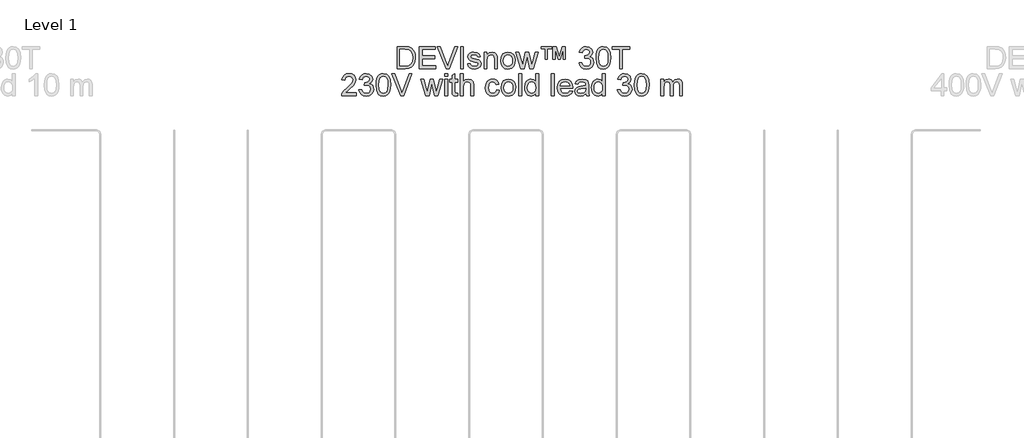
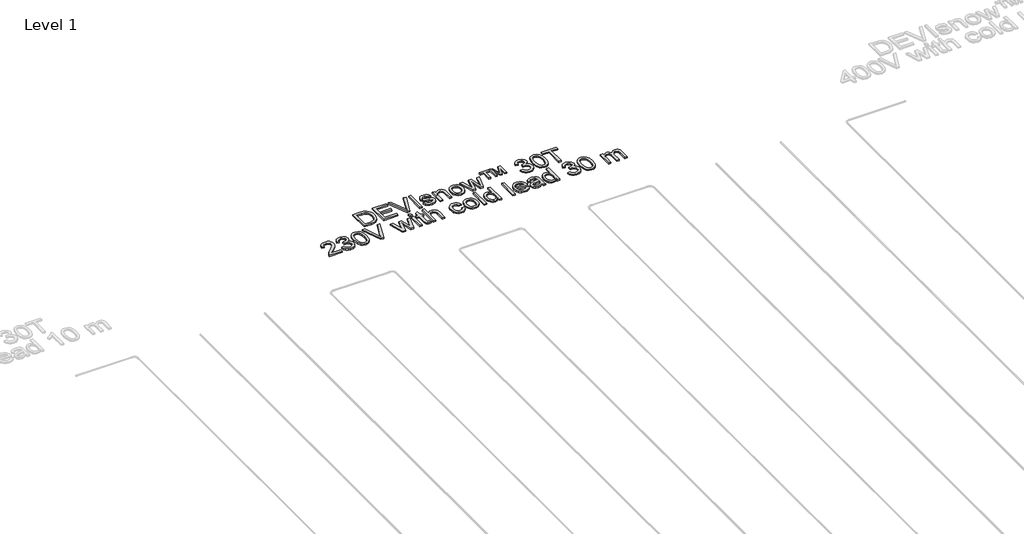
# One storey, part 21 of 26: 1 proxy.
"""IFC4 building model written with IfcOpenShell, lengths in millimetres."""

from ifc_helpers import new_model, si_unit, origin, origin_with_axes, place, context, project, spatial, polyline, outline, extrude, element, save

model = new_model("IFC4")

# Units and contexts
model_context = context("Model", 3, world=origin())
ifc_project = project(units=[si_unit("LENGTHUNIT", "METRE", prefix="MILLI")], contexts=[model_context])

# Site, building, storey
site = spatial("IfcSite", under=ifc_project)
building = spatial("IfcBuilding", under=site)
storey = spatial("IfcBuildingStorey", under=building, Name="Level 1", Elevation=0.0)

# Proxy
placement = place(None, origin())
element("IfcBuildingElementProxy", 1, Name="150mm", ObjectType="150mm", at=placement, inside=storey, context=model_context, shape_type="SweptSolid", body=[
    extrude(outline(polyline([(21423.8396742, -17520.7202), (21423.8396742, -17370.0357347), (21475.8214001, -17370.0357347), (21502.7135739, -17372.2062385), (21524.86007, -17382.985181), (21535.2803276, -17394.4630992), (21542.7023468, -17408.7369206), (21547.1445219, -17425.5307337), (21548.6252469, -17444.568627), (21544.6153332, -17474.9740739), (21534.3146373, -17496.9182349), (21520.5558507, -17510.585051), (21502.548027, -17518.145026), (21478.3229977, -17520.7202), (21423.8396742, -17520.7202)]), holes=[polyline([(21442.6752323, -17501.8846418), (21476.0053411, -17501.8846418), (21500.2487646, -17499.162315), (21514.2282804, -17491.4735813), (21525.6878045, -17472.7667819), (21529.7896888, -17444.2743214), (21527.7801334, -17423.746506), (21521.7514672, -17408.5897678), (21512.8441244, -17398.1787074), (21502.1985391, -17391.8879252), (21475.4903063, -17388.8712929), (21442.6752323, -17388.8712929), (21442.6752323, -17501.8846418)])]), origin_with_axes(), (0.0, 0.0, 1.0), 10.0),
    extrude(outline(polyline([(21574.5241394, -17520.7202), (21574.5241394, -17370.0357347), (21682.8285988, -17370.0357347), (21682.8285988, -17388.8712929), (21593.3596975, -17388.8712929), (21593.3596975, -17433.6057435), (21678.1197092, -17433.6057435), (21678.1197092, -17452.4413017), (21593.3596975, -17452.4413017), (21593.3596975, -17501.8846418), (21685.1830435, -17501.8846418), (21685.1830435, -17520.7202), (21574.5241394, -17520.7202)])), origin_with_axes(), (0.0, 0.0, 1.0), 10.0),
    extrude(outline(polyline([(21757.9501022, -17520.7202), (21697.985337, -17370.0357347), (21718.1452703, -17370.0357347), (21758.281196, -17478.5977115), (21766.4113881, -17503.0618642), (21774.4312156, -17478.5977115), (21814.6775058, -17370.0357347), (21834.8374392, -17370.0357347), (21777.4110597, -17520.7202), (21757.9501022, -17520.7202)])), origin_with_axes(), (0.0, 0.0, 1.0), 10.0),
    extrude(outline(polyline([(21854.7030669, -17520.7202), (21854.7030669, -17370.0357347), (21873.5386251, -17370.0357347), (21873.5386251, -17520.7202), (21854.7030669, -17520.7202)])), origin_with_axes(), (0.0, 0.0, 1.0), 10.0),
    extrude(outline(polyline([(21901.7919623, -17487.7579732), (21920.6275205, -17485.4035284), (21923.5981676, -17493.4601441), (21929.3463237, -17499.3830442), (21949.3223161, -17504.2390866), (21968.5257562, -17499.7877144), (21974.7797501, -17489.3398658), (21973.2070546, -17484.5390057), (21968.488968, -17480.8785799), (21949.1015869, -17475.5075028), (21920.7378851, -17466.2920588), (21908.3586559, -17455.5315104), (21904.1464071, -17440.337984), (21907.5309214, -17426.3032859), (21916.7647595, -17415.5795257), (21928.7393184, -17410.0061135), (21944.9445203, -17407.706851), (21967.8635686, -17411.4040651), (21982.4316956, -17421.4104554), (21988.9064188, -17438.314633), (21970.0708606, -17440.6690778), (21962.9891322, -17430.2764114), (21946.4160483, -17426.5424092), (21928.3898306, -17430.1108645), (21922.9819652, -17438.4249976), (21925.2260454, -17443.9064394), (21932.2525915, -17448.0635059), (21948.4761875, -17452.0734197), (21976.1225194, -17460.9393757), (21988.9616011, -17470.9825542), (21993.6153083, -17487.353303), (21988.1522607, -17505.3795208), (21972.3885172, -17518.4577257), (21949.0647987, -17523.0746447), (21930.0728907, -17520.8489587), (21916.2129365, -17514.1719004), (21906.9607043, -17503.1170465), (21901.7919623, -17487.7579732)])), origin_with_axes(), (0.0, 0.0, 1.0), 10.0),
    extrude(outline(polyline([(22014.8053112, -17520.7202), (22014.8053112, -17410.0612958), (22033.6408694, -17410.0612958), (22033.6408694, -17425.5123396), (22048.0434495, -17412.1582232), (22067.7067421, -17407.706851), (22085.4938366, -17411.2937005), (22097.6339424, -17420.7114796), (22103.2809311, -17434.5622367), (22104.2742124, -17452.7723954), (22104.2742124, -17520.7202), (22085.4386543, -17520.7202), (22085.4386543, -17455.3107812), (22083.2681505, -17438.6457268), (22075.5978109, -17429.834953), (22062.6667588, -17426.5424092), (22051.6348975, -17428.3910162), (22042.230914, -17433.9368373), (22035.7883805, -17444.6514004), (22033.6408694, -17462.0062335), (22033.6408694, -17520.7202), (22014.8053112, -17520.7202)])), origin_with_axes(), (0.0, 0.0, 1.0), 10.0),
    extrude(outline(polyline([(22125.4642154, -17465.3907479), (22129.5385085, -17438.7101062), (22141.7613878, -17419.9573215), (22156.8629437, -17410.7694686), (22174.9443437, -17407.706851), (22194.7317965, -17411.4362548), (22210.5369268, -17422.6244659), (22220.8974034, -17440.3885678), (22224.3508957, -17463.8456435), (22222.8241854, -17482.8743397), (22218.2440546, -17497.3596933), (22210.7438604, -17508.2076136), (22200.4569601, -17516.3240101), (22188.2386793, -17521.3869861), (22174.9443437, -17523.0746447), (22154.9177676, -17519.3590366), (22139.1310315, -17508.2122121), (22128.8809194, -17490.0756298), (22125.4642154, -17465.3907479)]), holes=[polyline([(22144.2997735, -17465.3539597), (22146.4794743, -17482.4006916), (22153.0185768, -17494.545396), (22162.8594202, -17501.8156639), (22174.9443437, -17504.2390866), (22186.974085, -17501.8018684), (22196.7965342, -17494.4902137), (22203.3356367, -17482.184561), (22205.5153375, -17464.7653485), (22203.3218411, -17448.2152572), (22196.7413519, -17436.2360998), (22186.9051071, -17428.9658318), (22174.9443437, -17426.5424092), (22162.8594202, -17428.9566348), (22153.0185768, -17436.1993116), (22146.4794743, -17448.3164248), (22144.2997735, -17465.3539597)])]), origin_with_axes(), (0.0, 0.0, 1.0), 10.0),
    extrude(outline(polyline([(22263.8982102, -17520.7202), (22230.2370076, -17410.0612958), (22249.8083297, -17410.0612958), (22268.9014053, -17474.624586), (22274.6035762, -17497.6907871), (22279.2756776, -17475.4707146), (22294.469204, -17410.0612958), (22316.9100057, -17410.0612958), (22332.0299557, -17475.2867736), (22336.1870222, -17495.4099187), (22342.1467105, -17474.1831276), (22361.2765743, -17410.0612958), (22380.9214728, -17410.0612958), (22347.0027529, -17520.7202), (22324.2308574, -17520.7202), (22309.773095, -17455.825816), (22305.5792402, -17435.5923063), (22286.9276231, -17520.7202), (22263.8982102, -17520.7202)])), origin_with_axes(), (0.0, 0.0, 1.0), 10.0),
    extrude(outline(polyline([(22429.1875906, -17454.7957464), (22429.1875906, -17384.1624033), (22400.9342534, -17384.1624033), (22400.9342534, -17370.0357347), (22471.5675964, -17370.0357347), (22471.5675964, -17384.1624033), (22443.3142592, -17384.1624033), (22443.3142592, -17454.7957464), (22429.1875906, -17454.7957464)])), origin_with_axes(), (0.0, 0.0, 1.0), 10.0),
    extrude(outline(polyline([(22480.9853755, -17454.7957464), (22480.9853755, -17370.0357347), (22501.8810728, -17370.0357347), (22523.4389578, -17438.0939038), (22544.7393253, -17370.0357347), (22565.7453872, -17370.0357347), (22565.7453872, -17454.7957464), (22551.6187186, -17454.7957464), (22551.6187186, -17385.1924729), (22530.4287157, -17454.7957464), (22516.302047, -17454.7957464), (22495.1120441, -17384.1624033), (22495.1120441, -17454.7957464), (22480.9853755, -17454.7957464)])), origin_with_axes(), (0.0, 0.0, 1.0), 10.0),
    extrude(outline(polyline([(22657.5687332, -17480.6946389), (22676.4042913, -17478.3401941), (22680.6211387, -17490.1767973), (22686.7969577, -17498.1690337), (22695.235251, -17502.7215733), (22706.2395212, -17504.2390866), (22719.1521792, -17502.1513563), (22729.1217813, -17495.8881653), (22735.4953368, -17486.5439626), (22737.6198553, -17475.2131972), (22735.5137309, -17464.4572473), (22729.1953577, -17455.7338455), (22719.6304258, -17449.9534997), (22707.7846255, -17448.0267177), (22694.5776619, -17450.0868569), (22696.6745893, -17431.2512987), (22699.6912216, -17431.4720279), (22721.0651656, -17426.0641626), (22728.1836822, -17419.2031634), (22730.556521, -17409.4358964), (22728.8366727, -17401.3011058), (22723.6771277, -17394.7022225), (22715.804453, -17390.3290253), (22705.9452156, -17388.8712929), (22696.067584, -17390.3428209), (22687.9925742, -17394.7574048), (22682.0972652, -17402.1150447), (22678.7587361, -17412.4157406), (22659.923178, -17410.0612958), (22665.468999, -17393.1479211), (22675.3374336, -17380.5203716), (22688.8387028, -17372.6568939), (22705.283028, -17370.0357347), (22727.9997412, -17375.2044768), (22743.8922434, -17389.3311454), (22749.3920792, -17408.3322504), (22744.1681549, -17425.6962806), (22728.7171111, -17438.1674802), (22740.507729, -17442.9315521), (22749.2449264, -17451.0433501), (22754.6527917, -17462.0614158), (22756.4554135, -17475.544291), (22752.8501699, -17493.9016025), (22742.0344393, -17509.2422817), (22725.7096757, -17519.616554), (22705.5773336, -17523.0746447), (22687.3671748, -17520.1223917), (22672.5415304, -17511.2656327), (22662.2316375, -17497.7183782), (22657.5687332, -17480.6946389)])), origin_with_axes(), (0.0, 0.0, 1.0), 10.0),
    extrude(outline(polyline([(22772.9365269, -17446.5919779), (22774.3206829, -17422.4727146), (22778.4731509, -17403.2370848), (22785.3525442, -17388.5907829), (22794.9174761, -17378.2395032), (22807.2369244, -17372.0866769), (22822.379867, -17370.0357347), (22844.3792103, -17374.8917771), (22859.5727367, -17388.889687), (22868.4019046, -17411.1833359), (22871.8232072, -17446.5919779), (22870.4528468, -17470.5732855), (22866.3417655, -17489.7629301), (22859.5037589, -17504.4230276), (22849.9526226, -17514.8156939), (22837.6055831, -17521.009907), (22822.379867, -17523.0746447), (22802.8085449, -17519.4877953), (22787.9461123, -17508.7272469), (22776.6889232, -17483.2422217), (22772.9365269, -17446.5919779)]), holes=[polyline([(22791.772085, -17446.5551897), (22793.979377, -17476.1834859), (22800.6012529, -17493.3313854), (22810.4604904, -17501.5121613), (22822.379867, -17504.2390866), (22834.2992437, -17501.5029642), (22844.1584811, -17493.2945972), (22850.7803571, -17476.1375007), (22852.987649, -17446.5551897), (22850.8539335, -17417.5936797), (22844.4527867, -17400.3124229), (22834.6119434, -17391.7315754), (22822.1591378, -17388.8712929), (22810.3685199, -17391.3912846), (22800.8955585, -17398.9512596), (22794.0529534, -17417.3085711), (22791.772085, -17446.5551897)])]), origin_with_axes(), (0.0, 0.0, 1.0), 10.0),
    extrude(outline(polyline([(22933.0387712, -17520.7202), (22933.0387712, -17388.8712929), (22883.595431, -17388.8712929), (22883.595431, -17370.0357347), (23001.3176695, -17370.0357347), (23001.3176695, -17388.8712929), (22951.8743293, -17388.8712929), (22951.8743293, -17520.7202), (22933.0387712, -17520.7202)])), origin_with_axes(), (0.0, 0.0, 1.0), 10.0),
    extrude(outline(polyline([(21147.1924138, -17684.8468686), (21147.1924138, -17703.6824267), (21048.3057335, -17703.6824267), (21050.3290845, -17690.6961923), (21061.7702145, -17670.7018059), (21085.3514504, -17648.8680094), (21117.8722188, -17617.4876753), (21123.9698628, -17606.6719446), (21126.0024109, -17596.1505195), (21124.084826, -17586.7189449), (21118.3320713, -17578.8784599), (21109.4891078, -17573.5947547), (21098.3008966, -17571.8335197), (21086.5516654, -17573.553368), (21077.4235934, -17578.712913), (21071.532883, -17586.9074844), (21069.4957364, -17597.7324121), (21050.6601783, -17595.3779673), (21055.2265135, -17577.1586115), (21065.0995466, -17563.8504804), (21079.7642426, -17555.7110912), (21098.7055668, -17552.9979615), (21117.7848468, -17556.0145939), (21132.4219517, -17565.0644909), (21141.7339647, -17578.5841543), (21144.837969, -17595.0100854), (21141.4902429, -17612.8707562), (21130.3618125, -17631.3384324), (21103.3776682, -17657.1453543), (21081.7094187, -17675.2635426), (21073.2113446, -17684.8468686), (21147.1924138, -17684.8468686)])), origin_with_axes(), (0.0, 0.0, 1.0), 10.0),
    extrude(outline(polyline([(21166.0279719, -17663.6568657), (21184.8635301, -17661.3024209), (21189.0803775, -17673.1390241), (21195.2561965, -17681.1312604), (21203.6944897, -17685.6838001), (21214.6987599, -17687.2013133), (21227.6114179, -17685.113583), (21237.58102, -17678.8503921), (21243.9545756, -17669.5061894), (21246.0790941, -17658.1754239), (21243.9729697, -17647.4194741), (21237.6545964, -17638.6960723), (21228.0896645, -17632.9157264), (21216.2438643, -17630.9889445), (21203.0369007, -17633.0490837), (21205.133828, -17614.2135255), (21208.1504604, -17614.4342547), (21229.5244043, -17609.0263894), (21236.6429209, -17602.1653902), (21239.0157598, -17592.3981232), (21237.2959115, -17584.2633326), (21232.1363665, -17577.6644493), (21224.2636918, -17573.2912521), (21214.4044543, -17571.8335197), (21204.5268227, -17573.3050476), (21196.4518129, -17577.7196316), (21190.556504, -17585.0772715), (21187.2179749, -17595.3779673), (21168.3824167, -17593.0235226), (21173.9282378, -17576.1101478), (21183.7966723, -17563.4825984), (21197.2979415, -17555.6191207), (21213.7422667, -17552.9979615), (21236.4589799, -17558.1667035), (21252.3514821, -17572.2933721), (21257.8513179, -17591.2944772), (21252.6273936, -17608.6585074), (21237.1763498, -17621.129707), (21248.9669678, -17625.8937788), (21257.7041651, -17634.0055768), (21263.1120305, -17645.0236426), (21264.9146523, -17658.5065177), (21261.3094087, -17676.8638293), (21250.493678, -17692.2045085), (21234.1689145, -17702.5787807), (21214.0365723, -17706.0368715), (21195.8264136, -17703.0846185), (21181.0007692, -17694.2278594), (21170.6908762, -17680.680605), (21166.0279719, -17663.6568657)])), origin_with_axes(), (0.0, 0.0, 1.0), 10.0),
    extrude(outline(polyline([(21281.3957656, -17629.5542047), (21282.7799216, -17605.4349414), (21286.9323897, -17586.1993116), (21293.811783, -17571.5530096), (21303.3767148, -17561.20173), (21315.6961632, -17555.0489036), (21330.8391058, -17552.9979615), (21352.8384491, -17557.8540038), (21368.0319755, -17571.8519138), (21376.8611434, -17594.1455627), (21380.2824459, -17629.5542047), (21378.9120855, -17653.5355123), (21374.8010042, -17672.7251568), (21367.9629976, -17687.3852543), (21358.4118613, -17697.7779207), (21346.0648219, -17703.9721338), (21330.8391058, -17706.0368715), (21311.2677836, -17702.450022), (21296.405351, -17691.6894737), (21285.148162, -17666.2044485), (21281.3957656, -17629.5542047)]), holes=[polyline([(21300.2313238, -17629.5174165), (21302.4386158, -17659.1457127), (21309.0604917, -17676.2936122), (21318.9197291, -17684.4743881), (21330.8391058, -17687.2013133), (21342.7584824, -17684.465191), (21352.6177199, -17676.256824), (21359.2395958, -17659.0997274), (21361.4468878, -17629.5174165), (21359.3131722, -17600.5559064), (21352.9120255, -17583.2746497), (21343.0711821, -17574.6938022), (21330.6183766, -17571.8335197), (21318.8277586, -17574.3535113), (21309.3547973, -17581.9134863), (21302.5121922, -17600.2707979), (21300.2313238, -17629.5174165)])]), origin_with_axes(), (0.0, 0.0, 1.0), 10.0),
    extrude(outline(polyline([(21448.340615, -17703.6824267), (21388.3758498, -17552.9979615), (21408.5357832, -17552.9979615), (21448.6717088, -17661.5599383), (21456.8019009, -17686.024091), (21464.8217284, -17661.5599383), (21505.0680187, -17552.9979615), (21525.227952, -17552.9979615), (21467.8015726, -17703.6824267), (21448.340615, -17703.6824267)])), origin_with_axes(), (0.0, 0.0, 1.0), 10.0),
    extrude(outline(polyline([(21617.603121, -17703.6824267), (21583.9419185, -17593.0235226), (21603.5132406, -17593.0235226), (21622.6063162, -17657.5868127), (21628.3084871, -17680.6530138), (21632.9805884, -17658.4329413), (21648.1741148, -17593.0235226), (21670.6149165, -17593.0235226), (21685.7348665, -17658.2490003), (21689.8919331, -17678.3721455), (21695.8516214, -17657.1453543), (21714.9814852, -17593.0235226), (21734.6263837, -17593.0235226), (21700.7076637, -17703.6824267), (21677.9357682, -17703.6824267), (21663.4780058, -17638.7880428), (21659.2841511, -17618.554533), (21640.6325339, -17703.6824267), (21617.603121, -17703.6824267)])), origin_with_axes(), (0.0, 0.0, 1.0), 10.0),
    extrude(outline(polyline([(21747.5758299, -17571.8335197), (21747.5758299, -17552.9979615), (21766.4113881, -17552.9979615), (21766.4113881, -17571.8335197), (21747.5758299, -17571.8335197)])), origin_with_axes(), (0.0, 0.0, 1.0), 10.0),
    extrude(outline(polyline([(21747.5758299, -17703.6824267), (21747.5758299, -17593.0235226), (21766.4113881, -17593.0235226), (21766.4113881, -17703.6824267), (21747.5758299, -17703.6824267)])), origin_with_axes(), (0.0, 0.0, 1.0), 10.0),
    extrude(outline(polyline([(21834.6902864, -17687.9738655), (21837.0447312, -17704.2342497), (21822.9548507, -17706.0368715), (21807.1727131, -17702.9098745), (21799.3000384, -17694.706106), (21797.0191701, -17673.3321621), (21797.0191701, -17611.8590807), (21782.8925015, -17611.8590807), (21782.8925015, -17593.0235226), (21797.0191701, -17593.0235226), (21797.0191701, -17566.1313487), (21815.8547282, -17555.0581007), (21815.8547282, -17593.0235226), (21834.6902864, -17593.0235226), (21834.6902864, -17611.8590807), (21815.8547282, -17611.8590807), (21815.8547282, -17672.7803391), (21816.8480096, -17682.4924238), (21820.0669771, -17685.9321205), (21826.4865179, -17687.2013133), (21834.6902864, -17687.9738655)])), origin_with_axes(), (0.0, 0.0, 1.0), 10.0),
    extrude(outline(polyline([(21853.5258445, -17703.6824267), (21853.5258445, -17552.9979615), (21872.3614027, -17552.9979615), (21872.3614027, -17608.40099), (21887.0490913, -17595.1020558), (21905.1396885, -17590.6690778), (21926.2929032, -17595.506726), (21939.1319848, -17608.8792366), (21942.9947458, -17633.6376948), (21942.9947458, -17703.6824267), (21924.1591876, -17703.6824267), (21924.1591876, -17635.5874694), (21922.6600685, -17623.7968515), (21918.1627111, -17615.7218417), (21910.9154358, -17611.0589374), (21901.1665629, -17609.504636), (21885.7339132, -17613.6984907), (21875.4332173, -17625.0660444), (21872.3614027, -17644.8948839), (21872.3614027, -17703.6824267), (21853.5258445, -17703.6824267)])), origin_with_axes(), (0.0, 0.0, 1.0), 10.0),
    extrude(outline(polyline([(22098.3881005, -17663.6568657), (22117.2236587, -17666.0113104), (22111.9721432, -17682.7637368), (22102.1037087, -17695.4234759), (22088.5472572, -17703.3835226), (22072.2316907, -17706.0368715), (22052.1959175, -17702.3350589), (22036.528743, -17691.2296212), (22026.4165867, -17673.208002), (22023.0458679, -17648.7576448), (22024.4852062, -17631.9960214), (22028.8032211, -17617.4692812), (22036.0688905, -17605.738444), (22046.3511923, -17597.3645301), (22058.6522465, -17592.3429409), (22071.9741733, -17590.6690778), (22087.8896681, -17592.9683403), (22100.6137866, -17599.8661277), (22109.7418586, -17610.994558), (22114.8692139, -17625.9857493), (22096.0336558, -17628.3401941), (22087.2964584, -17614.2319196), (22072.1213261, -17609.504636), (22059.9490306, -17611.8314896), (22050.2875297, -17618.8120504), (22043.982952, -17630.8233976), (22041.8814261, -17648.2426101), (22043.9369667, -17665.8963473), (22050.1035887, -17677.9490812), (22059.5903456, -17684.8882553), (22071.6062913, -17687.2013133), (22081.3597627, -17685.7573765), (22089.3565975, -17681.425566), (22095.1737316, -17674.0955173), (22098.3881005, -17663.6568657)])), origin_with_axes(), (0.0, 0.0, 1.0), 10.0),
    extrude(outline(polyline([(22128.9958825, -17648.3529747), (22133.0701756, -17621.672333), (22145.2930549, -17602.9195482), (22160.3946108, -17593.7316954), (22178.4760109, -17590.6690778), (22198.2634637, -17594.3984815), (22214.0685939, -17605.5866927), (22224.4290706, -17623.3507946), (22227.8825628, -17646.8078703), (22226.3558525, -17665.8365665), (22221.7757217, -17680.32192), (22214.2755275, -17691.1698404), (22203.9886272, -17699.2862369), (22191.7703465, -17704.3492128), (22178.4760109, -17706.0368715), (22158.4494348, -17702.3212633), (22142.6626986, -17691.1744389), (22132.4125866, -17673.0378565), (22128.9958825, -17648.3529747)]), holes=[polyline([(22147.8314407, -17648.3161865), (22150.0111415, -17665.3629184), (22156.550244, -17677.5076228), (22166.3910873, -17684.7778907), (22178.4760109, -17687.2013133), (22190.5057521, -17684.7640951), (22200.3282014, -17677.4524405), (22206.8673039, -17665.1467877), (22209.0470047, -17647.7275753), (22206.8535083, -17631.177484), (22200.2730191, -17619.1983265), (22190.4367742, -17611.9280586), (22178.4760109, -17609.504636), (22166.3910873, -17611.9188616), (22156.550244, -17619.1615383), (22150.0111415, -17631.2786516), (22147.8314407, -17648.3161865)])]), origin_with_axes(), (0.0, 0.0, 1.0), 10.0),
    extrude(outline(polyline([(22249.0725657, -17703.6824267), (22249.0725657, -17552.9979615), (22267.9081239, -17552.9979615), (22267.9081239, -17703.6824267), (22249.0725657, -17703.6824267)])), origin_with_axes(), (0.0, 0.0, 1.0), 10.0),
    extrude(outline(polyline([(22364.4403594, -17703.6824267), (22364.4403594, -17685.9137264), (22351.9783568, -17701.0060852), (22334.7522824, -17706.0368715), (22322.5753884, -17704.2158556), (22311.4285639, -17698.752808), (22301.9923908, -17690.0294062), (22294.9474505, -17678.4273278), (22290.5604578, -17664.4156223), (22289.0981268, -17648.4633392), (22294.4875981, -17618.4809566), (22301.2198386, -17606.5891711), (22310.6376176, -17597.8427767), (22322.0281639, -17592.4625025), (22334.678706, -17590.6690778), (22352.0427362, -17595.8010316), (22364.4403594, -17609.136754), (22364.4403594, -17552.9979615), (22383.2759176, -17552.9979615), (22383.2759176, -17703.6824267), (22364.4403594, -17703.6824267)]), holes=[polyline([(22307.933685, -17648.3897629), (22310.0582035, -17665.4272978), (22316.4317591, -17677.544411), (22325.6931883, -17684.7870877), (22336.4813278, -17687.2013133), (22347.2648688, -17684.8974523), (22356.2917732, -17677.9858694), (22362.4032129, -17666.3378057), (22364.4403594, -17649.8245026), (22362.3664247, -17631.7706937), (22356.1446204, -17619.2535088), (22346.8877897, -17611.9418542), (22335.7087756, -17609.504636), (22324.8102715, -17611.8452852), (22315.8799361, -17618.8672327), (22309.9202478, -17630.9291637), (22307.933685, -17648.3897629)])]), origin_with_axes(), (0.0, 0.0, 1.0), 10.0),
    extrude(outline(polyline([(22470.390374, -17703.6824267), (22470.390374, -17552.9979615), (22489.2259322, -17552.9979615), (22489.2259322, -17703.6824267), (22470.390374, -17703.6824267)])), origin_with_axes(), (0.0, 0.0, 1.0), 10.0),
    extrude(outline(polyline([(22594.9552176, -17670.7202), (22613.4228938, -17673.0746447), (22606.7688282, -17686.9897812), (22596.1508341, -17697.3916446), (22581.8080348, -17703.8755648), (22563.9795536, -17706.0368715), (22541.8790428, -17702.3074678), (22524.8736975, -17691.1192566), (22514.0303757, -17673.1988049), (22510.4159351, -17649.2726796), (22514.0671639, -17624.5418125), (22525.0208503, -17606.0465452), (22541.7962693, -17594.5134447), (22562.9126958, -17590.6690778), (22583.3715333, -17594.5042476), (22599.7192895, -17606.009757), (22610.4384511, -17624.4682361), (22614.011505, -17649.162315), (22613.9011404, -17654.2390866), (22529.2514933, -17654.2390866), (22532.5118475, -17668.338164), (22540.085618, -17678.7032393), (22551.0163118, -17685.0767948), (22564.3474356, -17687.2013133), (22582.8151118, -17683.264976), (22594.9552176, -17670.7202)]), holes=[polyline([(22529.2514933, -17635.4035284), (22595.1759468, -17635.4035284), (22592.628364, -17625.4523205), (22587.6343659, -17618.3338038), (22576.6530884, -17611.7119279), (22562.8391194, -17609.504636), (22550.1425921, -17611.265871), (22539.6441596, -17616.5495762), (22532.3463006, -17624.7855343), (22529.2514933, -17635.4035284)])]), origin_with_axes(), (0.0, 0.0, 1.0), 10.0),
    extrude(outline(polyline([(22703.4804062, -17689.5557581), (22685.2150651, -17702.3212633), (22665.0367377, -17706.0368715), (22649.2959868, -17703.8019884), (22637.6847114, -17697.097339), (22630.524808, -17686.9162048), (22628.1381736, -17674.2518671), (22631.7434171, -17659.3526463), (22641.2163785, -17648.5369156), (22654.404948, -17642.3564981), (22670.7021204, -17639.5238068), (22703.3700416, -17633.0490837), (22703.4804062, -17628.8552289), (22702.1836222, -17620.4491253), (22698.2932701, -17614.9492895), (22689.5928609, -17610.8657993), (22677.4711491, -17609.504636), (22658.4148618, -17613.1282736), (22649.3281765, -17625.9857493), (22630.4926183, -17623.6313046), (22638.6412045, -17605.2372048), (22655.0487415, -17594.4582624), (22679.8991703, -17590.6690778), (22702.7262481, -17594.016804), (22715.620512, -17602.4229076), (22721.3962594, -17615.2068069), (22722.3159643, -17631.6879203), (22722.3159643, -17655.1220034), (22723.2724575, -17687.8451068), (22727.0248539, -17703.6824267), (22708.1892957, -17703.6824267), (22703.4804062, -17689.5557581)]), holes=[polyline([(22703.4804062, -17651.8846418), (22673.0933534, -17657.6603891), (22656.8881515, -17660.7138097), (22649.5489057, -17665.6802166), (22646.9737317, -17672.9274919), (22652.5839322, -17683.1178232), (22669.0466514, -17687.2013133), (22688.1029388, -17682.6947589), (22700.3901974, -17671.7870577), (22703.3700416, -17657.2189307), (22703.4804062, -17651.8846418)])]), origin_with_axes(), (0.0, 0.0, 1.0), 10.0),
    extrude(outline(polyline([(22816.4937551, -17703.6824267), (22816.4937551, -17685.9137264), (22804.0317525, -17701.0060852), (22786.8056781, -17706.0368715), (22774.6287841, -17704.2158556), (22763.4819596, -17698.752808), (22754.0457864, -17690.0294062), (22747.0008462, -17678.4273278), (22742.6138534, -17664.4156223), (22741.1515225, -17648.4633392), (22746.5409937, -17618.4809566), (22753.2732342, -17606.5891711), (22762.6910133, -17597.8427767), (22774.0815596, -17592.4625025), (22786.7321017, -17590.6690778), (22804.0961319, -17595.8010316), (22816.4937551, -17609.136754), (22816.4937551, -17552.9979615), (22835.3293133, -17552.9979615), (22835.3293133, -17703.6824267), (22816.4937551, -17703.6824267)]), holes=[polyline([(22759.9870807, -17648.3897629), (22762.1115992, -17665.4272978), (22768.4851547, -17677.544411), (22777.746584, -17684.7870877), (22788.5347235, -17687.2013133), (22799.3182645, -17684.8974523), (22808.3451689, -17677.9858694), (22814.4566086, -17666.3378057), (22816.4937551, -17649.8245026), (22814.4198204, -17631.7706937), (22808.1980161, -17619.2535088), (22798.9411854, -17611.9418542), (22787.7621713, -17609.504636), (22776.8636672, -17611.8452852), (22767.9333317, -17618.8672327), (22761.9736434, -17630.9291637), (22759.9870807, -17648.3897629)])]), origin_with_axes(), (0.0, 0.0, 1.0), 10.0),
    extrude(outline(polyline([(22917.7348802, -17663.6568657), (22936.5704383, -17661.3024209), (22940.7872857, -17673.1390241), (22946.9631047, -17681.1312604), (22955.401398, -17685.6838001), (22966.4056681, -17687.2013133), (22979.3183262, -17685.113583), (22989.2879282, -17678.8503921), (22995.6614838, -17669.5061894), (22997.7860023, -17658.1754239), (22995.6798779, -17647.4194741), (22989.3615046, -17638.6960723), (22979.7965728, -17632.9157264), (22967.9507725, -17630.9889445), (22954.7438089, -17633.0490837), (22956.8407363, -17614.2135255), (22959.8573686, -17614.4342547), (22981.2313125, -17609.0263894), (22988.3498292, -17602.1653902), (22990.722668, -17592.3981232), (22989.0028197, -17584.2633326), (22983.8432747, -17577.6644493), (22975.9706, -17573.2912521), (22966.1113625, -17571.8335197), (22956.233731, -17573.3050476), (22948.1587212, -17577.7196316), (22942.2634122, -17585.0772715), (22938.9248831, -17595.3779673), (22920.089325, -17593.0235226), (22925.635146, -17576.1101478), (22935.5035805, -17563.4825984), (22949.0048498, -17555.6191207), (22965.449175, -17552.9979615), (22988.1658882, -17558.1667035), (23004.0583904, -17572.2933721), (23009.5582262, -17591.2944772), (23004.3343018, -17608.6585074), (22988.883258, -17621.129707), (23000.673876, -17625.8937788), (23009.4110734, -17634.0055768), (23014.8189387, -17645.0236426), (23016.6215605, -17658.5065177), (23013.0163169, -17676.8638293), (23002.2005863, -17692.2045085), (22985.8758227, -17702.5787807), (22965.7434806, -17706.0368715), (22947.5333218, -17703.0846185), (22932.7076774, -17694.2278594), (22922.3977845, -17680.680605), (22917.7348802, -17663.6568657)])), origin_with_axes(), (0.0, 0.0, 1.0), 10.0),
    extrude(outline(polyline([(23033.1026739, -17629.5542047), (23034.4868299, -17605.4349414), (23038.6392979, -17586.1993116), (23045.5186912, -17571.5530096), (23055.0836231, -17561.20173), (23067.4030714, -17555.0489036), (23082.546014, -17552.9979615), (23104.5453573, -17557.8540038), (23119.7388837, -17571.8519138), (23128.5680516, -17594.1455627), (23131.9893542, -17629.5542047), (23130.6189937, -17653.5355123), (23126.5079124, -17672.7251568), (23119.6699059, -17687.3852543), (23110.1187696, -17697.7779207), (23097.7717301, -17703.9721338), (23082.546014, -17706.0368715), (23062.9746919, -17702.450022), (23048.1122593, -17691.6894737), (23036.8550702, -17666.2044485), (23033.1026739, -17629.5542047)]), holes=[polyline([(23051.938232, -17629.5174165), (23054.145524, -17659.1457127), (23060.7673999, -17676.2936122), (23070.6266374, -17684.4743881), (23082.546014, -17687.2013133), (23094.4653907, -17684.465191), (23104.3246281, -17676.256824), (23110.946504, -17659.0997274), (23113.153796, -17629.5174165), (23111.0200804, -17600.5559064), (23104.6189337, -17583.2746497), (23094.7780904, -17574.6938022), (23082.3252848, -17571.8335197), (23070.5346669, -17574.3535113), (23061.0617055, -17581.9134863), (23054.2191004, -17600.2707979), (23051.938232, -17629.5174165)])]), origin_with_axes(), (0.0, 0.0, 1.0), 10.0),
    extrude(outline(polyline([(23212.0404763, -17703.6824267), (23212.0404763, -17593.0235226), (23230.8760345, -17593.0235226), (23230.8760345, -17611.2336813), (23243.8254807, -17596.3160664), (23262.2563687, -17590.6690778), (23272.7318085, -17592.1084161), (23281.128715, -17596.426431), (23291.5029873, -17612.5580565), (23306.199873, -17596.1413225), (23324.7595196, -17590.6690778), (23338.9183779, -17592.9453477), (23349.3892192, -17599.7741572), (23355.8593438, -17611.3394474), (23358.016052, -17627.8251593), (23358.016052, -17703.6824267), (23339.1804939, -17703.6824267), (23339.1804939, -17635.9185632), (23337.4330544, -17620.1916079), (23331.1054841, -17612.4476919), (23320.3449357, -17609.504636), (23310.1408089, -17611.3900312), (23301.8220772, -17617.0462169), (23296.2900517, -17626.8594691), (23294.4460432, -17641.2160639), (23294.4460432, -17703.6824267), (23275.6104851, -17703.6824267), (23275.6104851, -17633.8216358), (23271.2510834, -17615.5746889), (23265.4983287, -17611.0221492), (23256.9588679, -17609.504636), (23243.0161403, -17613.5513379), (23233.745514, -17625.3971382), (23230.8760345, -17647.8747281), (23230.8760345, -17703.6824267), (23212.0404763, -17703.6824267)])), origin_with_axes(), (0.0, 0.0, 1.0), 10.0),
])

save(model, "model.ifc")
